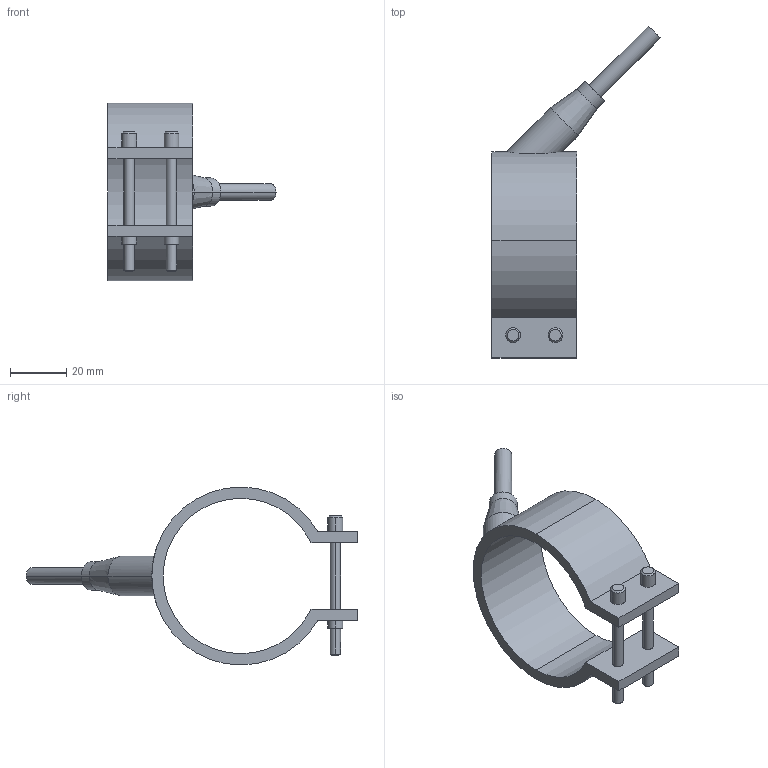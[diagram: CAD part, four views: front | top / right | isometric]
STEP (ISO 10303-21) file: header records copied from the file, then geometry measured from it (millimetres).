
FILE_DESCRIPTION(('CATIA V5 STEP Exchange'),'2;1');
FILE_NAME('C:\Users\Utente\Desktop\IO LAVORO\3D X SITO CF\X SITO\PLASTICA\RF1\29055030.stp','2021-03-29T13:11:58+00:00',('none'),('none'),'CATIA Version 5 Release 20 GA (IN-10)','CATIA V5 STEP AP203','none');
FILE_SCHEMA(('CONFIG_CONTROL_DESIGN'));
Length unit declared in the file: millimetre
Products named in the file (1): 29055030
Bounding box: 59.55 x 117.55 x 63 mm (x, y, z)
Volume: 28356.5 mm3; surface area: 15633.5 mm2
Topology: 1 solids, 1 shells, 54 faces, 124 edges, 80 vertices
Faces by surface type: cylinder 28, plane 16, cone 10
Entity records: 1711 total; most frequent: CARTESIAN_POINT 472, ORIENTED_EDGE 248, DIRECTION 214, EDGE_CURVE 124, AXIS2_PLACEMENT_3D 107, VERTEX_POINT 80, EDGE_LOOP 66, VECTOR 56
